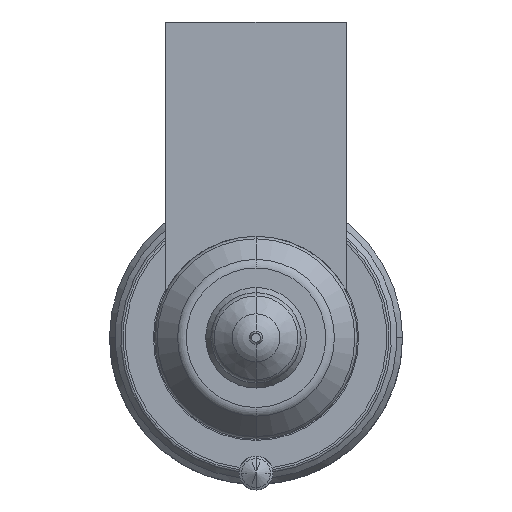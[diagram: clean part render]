
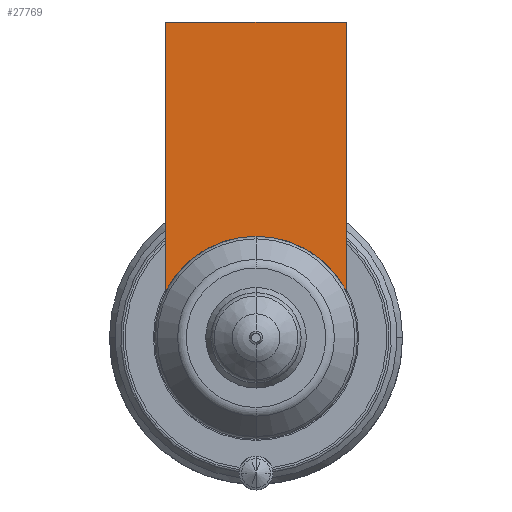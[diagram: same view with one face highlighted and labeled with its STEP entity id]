
A CAD part, front view. The second image highlights one B-rep face of the part: STEP entity #27769.
In plain terms, the highlighted planar face has unit normal (0, -1, 0).
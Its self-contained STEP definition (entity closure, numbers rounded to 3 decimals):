
#26878=DIRECTION('',(1.,0.,0.));
#26879=VECTOR('',#26878,16.);
#26880=CARTESIAN_POINT('',(-8.,-54.,28.));
#26881=LINE('',#26880,#26879);
#26886=CARTESIAN_POINT('',(0.,-54.,0.));
#26887=DIRECTION('',(0.,-1.,0.));
#26888=DIRECTION('',(0.889,0.,0.458));
#26889=AXIS2_PLACEMENT_3D('',#26886,#26887,#26888);
#26894=CARTESIAN_POINT('',(0.,-54.,0.));
#26895=DIRECTION('',(0.,-1.,0.));
#26896=DIRECTION('',(0.,0.,1.));
#26897=AXIS2_PLACEMENT_3D('',#26894,#26895,#26896);
#26923=DIRECTION('',(0.,0.,-1.));
#26924=VECTOR('',#26923,23.877);
#26925=CARTESIAN_POINT('',(-8.,-54.,28.));
#26926=LINE('',#26925,#26924);
#27613=DIRECTION('',(0.,0.,-1.));
#27614=VECTOR('',#27613,23.877);
#27615=CARTESIAN_POINT('',(8.,-54.,28.));
#27616=LINE('',#27615,#27614);
#27666=CARTESIAN_POINT('',(-8.,-54.,28.));
#27667=VERTEX_POINT('',#27666);
#27672=CARTESIAN_POINT('',(8.,-54.,28.));
#27673=VERTEX_POINT('',#27672);
#27676=CARTESIAN_POINT('',(-8.,-54.,4.123));
#27677=VERTEX_POINT('',#27676);
#27680=CARTESIAN_POINT('',(8.,-54.,4.123));
#27681=VERTEX_POINT('',#27680);
#27750=CARTESIAN_POINT('',(0.,-54.,9.));
#27751=VERTEX_POINT('',#27750);
#27752=CARTESIAN_POINT('',(0.,-54.,9.));
#27753=DIRECTION('',(0.,1.,0.));
#27754=DIRECTION('',(0.,0.,-1.));
#27755=AXIS2_PLACEMENT_3D('',#27752,#27753,#27754);
#27756=PLANE('',#27755);
#27758=ORIENTED_EDGE('',*,*,#27757,.F.);
#27760=ORIENTED_EDGE('',*,*,#27759,.T.);
#27762=ORIENTED_EDGE('',*,*,#27761,.T.);
#27764=ORIENTED_EDGE('',*,*,#27763,.T.);
#27766=ORIENTED_EDGE('',*,*,#27765,.T.);
#27767=EDGE_LOOP('',(#27758,#27760,#27762,#27764,#27766));
#27768=FACE_OUTER_BOUND('',#27767,.F.);
#27769=ADVANCED_FACE('',(#27768),#27756,.F.);
#26890=CIRCLE('',#26889,9.);
#26898=CIRCLE('',#26897,9.);
#27757=EDGE_CURVE('',#27667,#27677,#26926,.T.);
#27759=EDGE_CURVE('',#27667,#27673,#26881,.T.);
#27761=EDGE_CURVE('',#27673,#27681,#27616,.T.);
#27763=EDGE_CURVE('',#27681,#27751,#26890,.T.);
#27765=EDGE_CURVE('',#27751,#27677,#26898,.T.);
